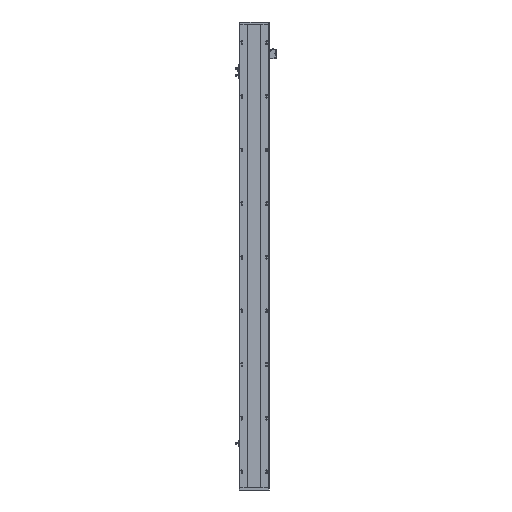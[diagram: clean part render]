
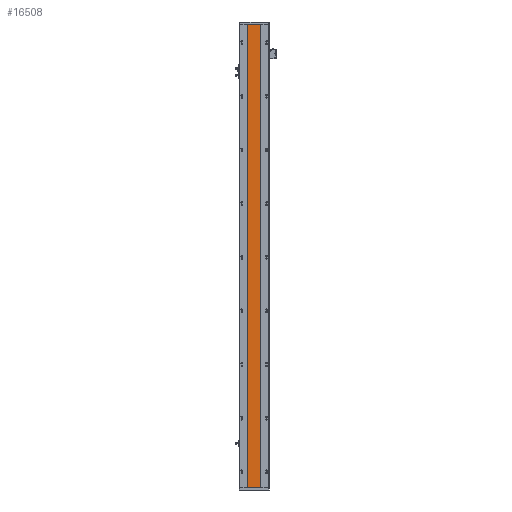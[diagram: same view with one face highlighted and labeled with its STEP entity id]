
A CAD part, front view. The second image highlights one B-rep face of the part: STEP entity #16508.
In plain terms, the highlighted planar face has unit normal (0, -1, 0).
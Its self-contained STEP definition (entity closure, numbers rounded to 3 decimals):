
#108 = VERTEX_POINT ( 'NONE', #20931 ) ;
#837 = VECTOR ( 'NONE', #25907, 1000. ) ;
#3631 = CARTESIAN_POINT ( 'NONE',  ( 0., 115.96, 0. ) ) ;
#3993 = CARTESIAN_POINT ( 'NONE',  ( 133.07, 115.96, 0. ) ) ;
#7147 = DIRECTION ( 'NONE',  ( -1., 0., 0. ) ) ;
#8613 = ORIENTED_EDGE ( 'NONE', *, *, #13043, .F. ) ;
#9335 = DIRECTION ( 'NONE',  ( 0., 1., 0. ) ) ;
#9351 = CARTESIAN_POINT ( 'NONE',  ( 133.07, 115.96, 1864. ) ) ;
#9433 = LINE ( 'NONE', #9351, #837 ) ;
#9616 = PLANE ( 'NONE',  #18033 ) ;
#11338 = CARTESIAN_POINT ( 'NONE',  ( 133.07, 115.96, 1864. ) ) ;
#12605 = EDGE_CURVE ( 'NONE', #18276, #20053, #9433, .T. ) ;
#13043 = EDGE_CURVE ( 'NONE', #18276, #19006, #26525, .T. ) ;
#14532 = ORIENTED_EDGE ( 'NONE', *, *, #12605, .T. ) ;
#15995 = CARTESIAN_POINT ( 'NONE',  ( 0., 115.96, 1864. ) ) ;
#16508 = ADVANCED_FACE ( 'NONE', ( #23802 ), #9616, .F. ) ;
#16919 = VECTOR ( 'NONE', #17690, 1000. ) ;
#17683 = EDGE_LOOP ( 'NONE', ( #26431, #22379, #8613, #14532 ) ) ;
#17690 = DIRECTION ( 'NONE',  ( 0., 0., -1. ) ) ;
#18033 = AXIS2_PLACEMENT_3D ( 'NONE', #15995, #9335, #7147 ) ;
#18276 = VERTEX_POINT ( 'NONE', #11338 ) ;
#19006 = VERTEX_POINT ( 'NONE', #26472 ) ;
#20053 = VERTEX_POINT ( 'NONE', #3993 ) ;
#20149 = LINE ( 'NONE', #29020, #16919 ) ;
#20565 = DIRECTION ( 'NONE',  ( 1., 0., 0. ) ) ;
#20931 = CARTESIAN_POINT ( 'NONE',  ( 183.063, 115.96, 0. ) ) ;
#21048 = LINE ( 'NONE', #3631, #28244 ) ;
#21798 = EDGE_CURVE ( 'NONE', #19006, #108, #20149, .T. ) ;
#21838 = DIRECTION ( 'NONE',  ( 1., 0., 0. ) ) ;
#22379 = ORIENTED_EDGE ( 'NONE', *, *, #21798, .F. ) ;
#23802 = FACE_OUTER_BOUND ( 'NONE', #17683, .T. ) ;
#24714 = EDGE_CURVE ( 'NONE', #20053, #108, #21048, .T. ) ;
#25357 = CARTESIAN_POINT ( 'NONE',  ( 0., 115.96, 1864. ) ) ;
#25907 = DIRECTION ( 'NONE',  ( 0., 0., -1. ) ) ;
#26431 = ORIENTED_EDGE ( 'NONE', *, *, #24714, .T. ) ;
#26472 = CARTESIAN_POINT ( 'NONE',  ( 183.063, 115.96, 1864. ) ) ;
#26525 = LINE ( 'NONE', #25357, #29022 ) ;
#28244 = VECTOR ( 'NONE', #21838, 1000. ) ;
#29020 = CARTESIAN_POINT ( 'NONE',  ( 183.063, 115.96, 1864. ) ) ;
#29022 = VECTOR ( 'NONE', #20565, 1000. ) ;
